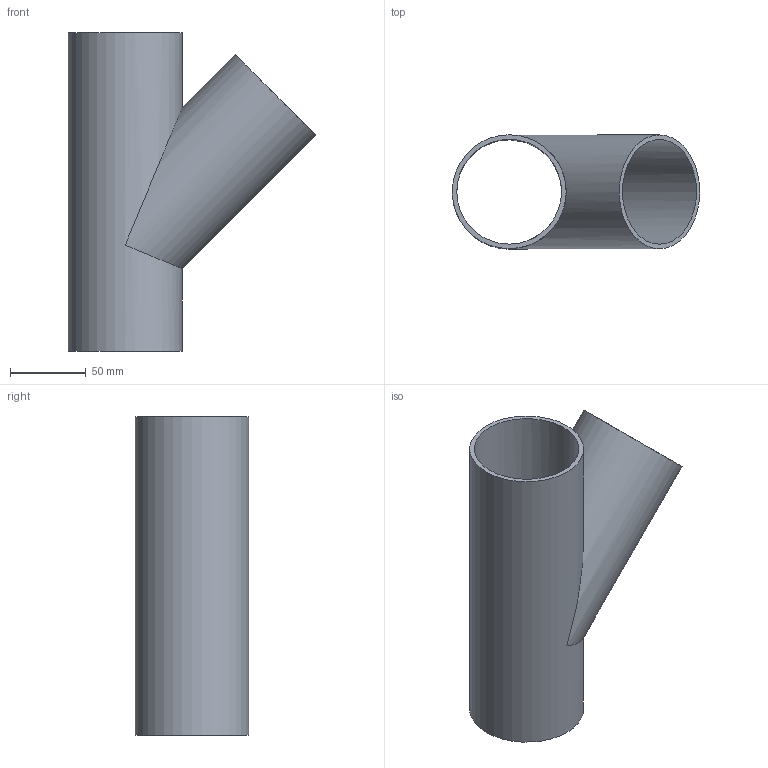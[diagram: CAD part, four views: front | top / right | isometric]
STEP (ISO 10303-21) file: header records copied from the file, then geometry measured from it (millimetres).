
FILE_DESCRIPTION(/* description */ (''),/* implementation_level */ '2;1');
FILE_NAME(/* name */ 'C:\Planerdaten\Export PLA\PRO_101557\stp\365125.stp',/* time_stamp */ '2021-09-30T15:05:11+02:00',/* author */ ('JANAN'),/* organization */ (''),/* preprocessor_version */ 'ST-DEVELOPER v16.13',/* originating_system */ 'Autodesk Inventor 2018',/* authorisation */ '');
FILE_SCHEMA (('AUTOMOTIVE_DESIGN { 1 0 10303 214 3 1 1 }'));
Length unit declared in the file: millimetre
Products named in the file (1): tmp8AE4.tmp
Bounding box: 163.01 x 75 x 210 mm (x, y, z)
Volume: 193491.3 mm3; surface area: 130996 mm2
Topology: 1 solids, 1 shells, 7 faces, 19 edges, 14 vertices
Faces by surface type: cylinder 4, plane 3
Full cylindrical faces by diameter (mm): 69 x2, 75 x2
Entity records: 228 total; most frequent: DIRECTION 36, CARTESIAN_POINT 28, ORIENTED_EDGE 20, AXIS2_PLACEMENT_3D 18, EDGE_LOOP 16, VERTEX_POINT 10, EDGE_CURVE 10, FACE_BOUND 9
